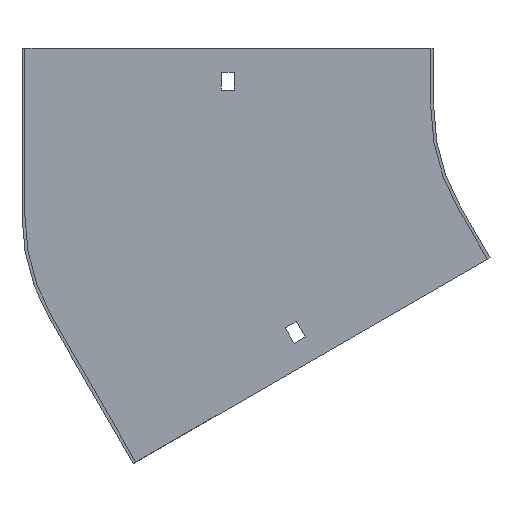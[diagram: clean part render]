
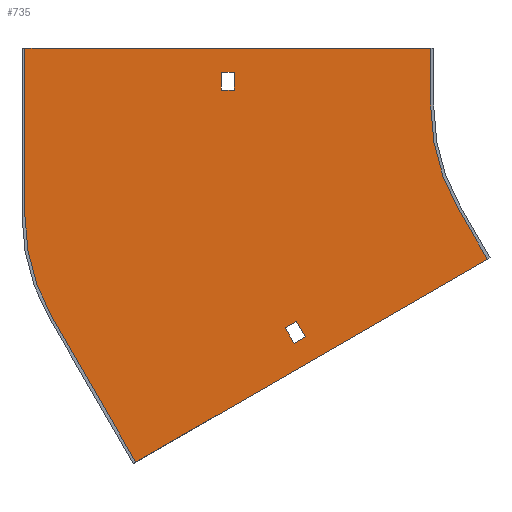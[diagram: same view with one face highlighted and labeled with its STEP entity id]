
A CAD part, front view. The second image highlights one B-rep face of the part: STEP entity #735.
In plain terms, the highlighted planar face has unit normal (0, -1, 0).
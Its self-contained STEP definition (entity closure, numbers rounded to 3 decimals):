
#1 = CARTESIAN_POINT ( 'NONE',  ( -100., -1.5, 0. ) ) ;
#2 = VERTEX_POINT ( 'NONE', #765 ) ;
#8 = DIRECTION ( 'NONE',  ( 0., 0., 1. ) ) ;
#15 = DIRECTION ( 'NONE',  ( 0., -1., 0. ) ) ;
#17 = LINE ( 'NONE', #478, #781 ) ;
#18 = CARTESIAN_POINT ( 'NONE',  ( -100., -1.5, 30. ) ) ;
#19 = DIRECTION ( 'NONE',  ( 0., 0., -1. ) ) ;
#21 = CARTESIAN_POINT ( 'NONE',  ( -71.603, -1.5, -75.981 ) ) ;
#27 = CARTESIAN_POINT ( 'NONE',  ( -304., -1.5, -54.662 ) ) ;
#34 = DIRECTION ( 'NONE',  ( 1., 0., 0. ) ) ;
#44 = EDGE_LOOP ( 'NONE', ( #782, #124, #317, #505 ) ) ;
#57 = VERTEX_POINT ( 'NONE', #21 ) ;
#59 = ORIENTED_EDGE ( 'NONE', *, *, #475, .T. ) ;
#62 = EDGE_CURVE ( 'NONE', #219, #845, #288, .T. ) ;
#68 = VECTOR ( 'NONE', #528, 1000. ) ;
#73 = ORIENTED_EDGE ( 'NONE', *, *, #484, .T. ) ;
#77 = LINE ( 'NONE', #344, #703 ) ;
#82 = DIRECTION ( 'NONE',  ( 0., 0., 1. ) ) ;
#98 = VERTEX_POINT ( 'NONE', #820 ) ;
#109 = VECTOR ( 'NONE', #726, 1000. ) ;
#111 = VECTOR ( 'NONE', #424, 1000. ) ;
#112 = LINE ( 'NONE', #593, #109 ) ;
#124 = ORIENTED_EDGE ( 'NONE', *, *, #772, .F. ) ;
#137 = EDGE_CURVE ( 'NONE', #381, #362, #689, .T. ) ;
#142 = DIRECTION ( 'NONE',  ( 0., 0., -1. ) ) ;
#148 = LINE ( 'NONE', #545, #707 ) ;
#153 = CARTESIAN_POINT ( 'NONE',  ( -205.25, -1.5, 9. ) ) ;
#159 = CARTESIAN_POINT ( 'NONE',  ( -163.123, -1.5, -114.963 ) ) ;
#170 = VERTEX_POINT ( 'NONE', #159 ) ;
#171 = VERTEX_POINT ( 'NONE', #153 ) ;
#173 = EDGE_CURVE ( 'NONE', #57, #219, #427, .T. ) ;
#176 = ORIENTED_EDGE ( 'NONE', *, *, #527, .F. ) ;
#195 = CARTESIAN_POINT ( 'NONE',  ( -204., -1.5, -54.662 ) ) ;
#198 = ORIENTED_EDGE ( 'NONE', *, *, #733, .F. ) ;
#219 = VERTEX_POINT ( 'NONE', #727 ) ;
#240 = EDGE_CURVE ( 'NONE', #794, #656, #396, .T. ) ;
#247 = ORIENTED_EDGE ( 'NONE', *, *, #797, .F. ) ;
#272 = CARTESIAN_POINT ( 'NONE',  ( -304., -1.5, -54.662 ) ) ;
#275 = CARTESIAN_POINT ( 'NONE',  ( 0., -1.5, 9. ) ) ;
#288 = LINE ( 'NONE', #559, #111 ) ;
#289 = CARTESIAN_POINT ( 'NONE',  ( -290.603, -1.5, -104.662 ) ) ;
#298 = VECTOR ( 'NONE', #668, 1000. ) ;
#310 = EDGE_CURVE ( 'NONE', #583, #850, #777, .T. ) ;
#317 = ORIENTED_EDGE ( 'NONE', *, *, #539, .F. ) ;
#322 = VECTOR ( 'NONE', #82, 1000. ) ;
#325 = CARTESIAN_POINT ( 'NONE',  ( -173.252, -1.5, -110.419 ) ) ;
#329 = VECTOR ( 'NONE', #607, 1000. ) ;
#330 = DIRECTION ( 'NONE',  ( -0.866, 0., -0.5 ) ) ;
#344 = CARTESIAN_POINT ( 'NONE',  ( -205.25, -1.5, 0. ) ) ;
#348 = LINE ( 'NONE', #275, #329 ) ;
#354 = DIRECTION ( 'NONE',  ( 0.5, 0., -0.866 ) ) ;
#355 = FACE_OUTER_BOUND ( 'NONE', #435, .T. ) ;
#357 = CARTESIAN_POINT ( 'NONE',  ( -100., -1.5, 30. ) ) ;
#362 = VERTEX_POINT ( 'NONE', #457 ) ;
#364 = LINE ( 'NONE', #568, #714 ) ;
#369 = CARTESIAN_POINT ( 'NONE',  ( -86.603, -1.5, -50. ) ) ;
#370 = CARTESIAN_POINT ( 'NONE',  ( 0., -1.5, 0. ) ) ;
#374 = CARTESIAN_POINT ( 'NONE',  ( -205.25, -1.5, 18. ) ) ;
#375 = CARTESIAN_POINT ( 'NONE',  ( 0., -1.5, 18. ) ) ;
#377 = EDGE_CURVE ( 'NONE', #170, #794, #112, .T. ) ;
#381 = VERTEX_POINT ( 'NONE', #374 ) ;
#392 = ORIENTED_EDGE ( 'NONE', *, *, #847, .F. ) ;
#396 = LINE ( 'NONE', #662, #432 ) ;
#404 = CARTESIAN_POINT ( 'NONE',  ( -177.752, -1.5, -102.625 ) ) ;
#413 = VECTOR ( 'NONE', #34, 1000. ) ;
#419 = DIRECTION ( 'NONE',  ( 0.866, 0., 0.5 ) ) ;
#422 = FACE_BOUND ( 'NONE', #44, .T. ) ;
#424 = DIRECTION ( 'NONE',  ( -0.5, 0., 0.866 ) ) ;
#427 = LINE ( 'NONE', #652, #68 ) ;
#431 = CARTESIAN_POINT ( 'NONE',  ( -167.623, -1.5, -107.169 ) ) ;
#432 = VECTOR ( 'NONE', #330, 1000. ) ;
#435 = EDGE_LOOP ( 'NONE', ( #198, #247, #176, #573, #586, #644, #750, #392 ) ) ;
#457 = CARTESIAN_POINT ( 'NONE',  ( -198.75, -1.5, 18. ) ) ;
#466 = DIRECTION ( 'NONE',  ( 0., 0., -1. ) ) ;
#475 = EDGE_CURVE ( 'NONE', #171, #381, #77, .T. ) ;
#476 = DIRECTION ( 'NONE',  ( 1., 0., 0. ) ) ;
#477 = VERTEX_POINT ( 'NONE', #272 ) ;
#478 = CARTESIAN_POINT ( 'NONE',  ( -198.75, -1.5, 0. ) ) ;
#484 = EDGE_CURVE ( 'NONE', #2, #171, #348, .T. ) ;
#490 = LINE ( 'NONE', #27, #322 ) ;
#505 = ORIENTED_EDGE ( 'NONE', *, *, #240, .F. ) ;
#527 = EDGE_CURVE ( 'NONE', #845, #477, #675, .T. ) ;
#528 = DIRECTION ( 'NONE',  ( -0.866, 0., -0.5 ) ) ;
#539 = EDGE_CURVE ( 'NONE', #656, #839, #732, .T. ) ;
#545 = CARTESIAN_POINT ( 'NONE',  ( -305.5, -1.5, 30. ) ) ;
#559 = CARTESIAN_POINT ( 'NONE',  ( -248.272, -1.5, -177.981 ) ) ;
#560 = DIRECTION ( 'NONE',  ( 0., 0., -1. ) ) ;
#563 = LINE ( 'NONE', #357, #649 ) ;
#568 = CARTESIAN_POINT ( 'NONE',  ( 9., -1.5, -15.588 ) ) ;
#573 = ORIENTED_EDGE ( 'NONE', *, *, #62, .F. ) ;
#583 = VERTEX_POINT ( 'NONE', #1 ) ;
#586 = ORIENTED_EDGE ( 'NONE', *, *, #173, .F. ) ;
#593 = CARTESIAN_POINT ( 'NONE',  ( -172.123, -1.5, -99.375 ) ) ;
#596 = AXIS2_PLACEMENT_3D ( 'NONE', #370, #830, #19 ) ;
#601 = DIRECTION ( 'NONE',  ( 0., 1., 0. ) ) ;
#607 = DIRECTION ( 'NONE',  ( -1., 0., 0. ) ) ;
#618 = FACE_BOUND ( 'NONE', #775, .T. ) ;
#644 = ORIENTED_EDGE ( 'NONE', *, *, #827, .F. ) ;
#649 = VECTOR ( 'NONE', #560, 1000. ) ;
#652 = CARTESIAN_POINT ( 'NONE',  ( -70.304, -1.5, -75.231 ) ) ;
#656 = VERTEX_POINT ( 'NONE', #325 ) ;
#662 = CARTESIAN_POINT ( 'NONE',  ( 4.5, -1.5, -7.794 ) ) ;
#668 = DIRECTION ( 'NONE',  ( 0.5, 0., -0.866 ) ) ;
#671 = ORIENTED_EDGE ( 'NONE', *, *, #696, .T. ) ;
#675 = CIRCLE ( 'NONE', #742, 100. ) ;
#679 = AXIS2_PLACEMENT_3D ( 'NONE', #688, #15, #695 ) ;
#688 = CARTESIAN_POINT ( 'NONE',  ( 0., -1.5, 0. ) ) ;
#689 = LINE ( 'NONE', #375, #413 ) ;
#691 = PLANE ( 'NONE',  #679 ) ;
#695 = DIRECTION ( 'NONE',  ( 0., 0., -1. ) ) ;
#696 = EDGE_CURVE ( 'NONE', #362, #2, #17, .T. ) ;
#703 = VECTOR ( 'NONE', #8, 1000. ) ;
#707 = VECTOR ( 'NONE', #476, 1000. ) ;
#714 = VECTOR ( 'NONE', #419, 1000. ) ;
#715 = ORIENTED_EDGE ( 'NONE', *, *, #137, .T. ) ;
#726 = DIRECTION ( 'NONE',  ( -0.5, 0., 0.866 ) ) ;
#727 = CARTESIAN_POINT ( 'NONE',  ( -248.272, -1.5, -177.981 ) ) ;
#732 = LINE ( 'NONE', #404, #298 ) ;
#733 = EDGE_CURVE ( 'NONE', #98, #861, #148, .T. ) ;
#735 = ADVANCED_FACE ( 'NONE', ( #422, #355, #618 ), #691, .T. ) ;
#742 = AXIS2_PLACEMENT_3D ( 'NONE', #195, #601, #466 ) ;
#750 = ORIENTED_EDGE ( 'NONE', *, *, #310, .F. ) ;
#753 = LINE ( 'NONE', #369, #838 ) ;
#757 = CARTESIAN_POINT ( 'NONE',  ( -168.752, -1.5, -118.213 ) ) ;
#765 = CARTESIAN_POINT ( 'NONE',  ( -198.75, -1.5, 9. ) ) ;
#766 = CARTESIAN_POINT ( 'NONE',  ( -86.603, -1.5, -50. ) ) ;
#772 = EDGE_CURVE ( 'NONE', #839, #170, #364, .T. ) ;
#775 = EDGE_LOOP ( 'NONE', ( #715, #671, #73, #59 ) ) ;
#777 = CIRCLE ( 'NONE', #596, 100. ) ;
#781 = VECTOR ( 'NONE', #142, 1000. ) ;
#782 = ORIENTED_EDGE ( 'NONE', *, *, #377, .F. ) ;
#794 = VERTEX_POINT ( 'NONE', #431 ) ;
#797 = EDGE_CURVE ( 'NONE', #477, #98, #490, .T. ) ;
#820 = CARTESIAN_POINT ( 'NONE',  ( -304., -1.5, 30. ) ) ;
#827 = EDGE_CURVE ( 'NONE', #850, #57, #753, .T. ) ;
#830 = DIRECTION ( 'NONE',  ( 0., -1., 0. ) ) ;
#838 = VECTOR ( 'NONE', #354, 1000. ) ;
#839 = VERTEX_POINT ( 'NONE', #757 ) ;
#845 = VERTEX_POINT ( 'NONE', #289 ) ;
#847 = EDGE_CURVE ( 'NONE', #861, #583, #563, .T. ) ;
#850 = VERTEX_POINT ( 'NONE', #766 ) ;
#861 = VERTEX_POINT ( 'NONE', #18 ) ;
